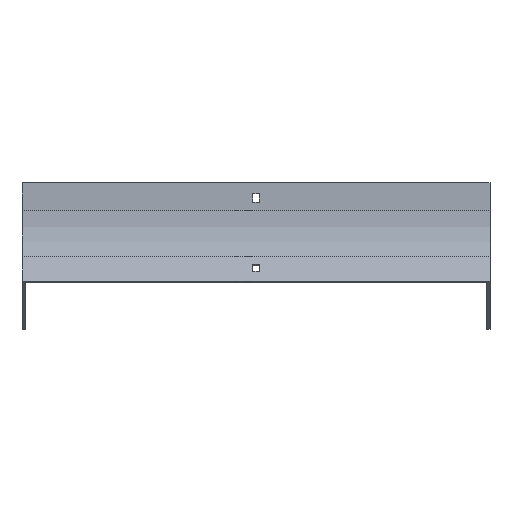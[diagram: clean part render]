
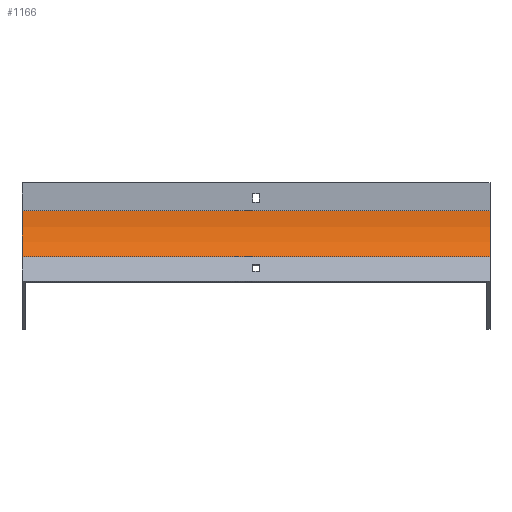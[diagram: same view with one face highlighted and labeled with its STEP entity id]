
A CAD part, front view. The second image highlights one B-rep face of the part: STEP entity #1166.
In plain terms, the highlighted cylindrical face has radius 100 mm (diameter 200 mm), a partial arc.
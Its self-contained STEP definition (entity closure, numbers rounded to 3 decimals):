
#49 = DIRECTION ( 'NONE',  ( -1., 0., 0. ) ) ;
#133 = DIRECTION ( 'NONE',  ( -1., 0., 0. ) ) ;
#297 = CARTESIAN_POINT ( 'NONE',  ( 252., -100., -30. ) ) ;
#334 = AXIS2_PLACEMENT_3D ( 'NONE', #736, #133, #1176 ) ;
#388 = CARTESIAN_POINT ( 'NONE',  ( 252., 0., -30. ) ) ;
#402 = CARTESIAN_POINT ( 'NONE',  ( -252., 0., -30. ) ) ;
#405 = CARTESIAN_POINT ( 'NONE',  ( 252., 0., -30. ) ) ;
#557 = CYLINDRICAL_SURFACE ( 'NONE', #1529, 100. ) ;
#608 = EDGE_CURVE ( 'NONE', #1259, #1346, #1929, .T. ) ;
#736 = CARTESIAN_POINT ( 'NONE',  ( -252., -100., -30. ) ) ;
#782 = CARTESIAN_POINT ( 'NONE',  ( 252., -13.397, -80. ) ) ;
#809 = CIRCLE ( 'NONE', #334, 100. ) ;
#818 = EDGE_LOOP ( 'NONE', ( #826, #1904, #1129, #973 ) ) ;
#826 = ORIENTED_EDGE ( 'NONE', *, *, #1754, .T. ) ;
#879 = DIRECTION ( 'NONE',  ( -1., 0., 0. ) ) ;
#955 = VERTEX_POINT ( 'NONE', #402 ) ;
#973 = ORIENTED_EDGE ( 'NONE', *, *, #1367, .T. ) ;
#995 = VECTOR ( 'NONE', #49, 1000. ) ;
#1002 = DIRECTION ( 'NONE',  ( -1., 0., 0. ) ) ;
#1051 = EDGE_CURVE ( 'NONE', #1746, #1259, #1812, .T. ) ;
#1129 = ORIENTED_EDGE ( 'NONE', *, *, #1051, .F. ) ;
#1152 = CARTESIAN_POINT ( 'NONE',  ( 252., -100., -30. ) ) ;
#1166 = ADVANCED_FACE ( 'NONE', ( #1323 ), #557, .F. ) ;
#1174 = DIRECTION ( 'NONE',  ( 0., 0., 1. ) ) ;
#1176 = DIRECTION ( 'NONE',  ( 0., 0., 1. ) ) ;
#1259 = VERTEX_POINT ( 'NONE', #782 ) ;
#1280 = CARTESIAN_POINT ( 'NONE',  ( -252., -13.397, -80. ) ) ;
#1323 = FACE_OUTER_BOUND ( 'NONE', #818, .T. ) ;
#1331 = DIRECTION ( 'NONE',  ( -1., 0., 0. ) ) ;
#1346 = VERTEX_POINT ( 'NONE', #1280 ) ;
#1367 = EDGE_CURVE ( 'NONE', #1746, #955, #1890, .T. ) ;
#1482 = CARTESIAN_POINT ( 'NONE',  ( 252., -13.397, -80. ) ) ;
#1529 = AXIS2_PLACEMENT_3D ( 'NONE', #1152, #1002, #1174 ) ;
#1726 = AXIS2_PLACEMENT_3D ( 'NONE', #297, #1331, #1785 ) ;
#1746 = VERTEX_POINT ( 'NONE', #405 ) ;
#1754 = EDGE_CURVE ( 'NONE', #955, #1346, #809, .T. ) ;
#1773 = VECTOR ( 'NONE', #879, 1000. ) ;
#1785 = DIRECTION ( 'NONE',  ( 0., 0., 1. ) ) ;
#1812 = CIRCLE ( 'NONE', #1726, 100. ) ;
#1890 = LINE ( 'NONE', #388, #995 ) ;
#1904 = ORIENTED_EDGE ( 'NONE', *, *, #608, .F. ) ;
#1929 = LINE ( 'NONE', #1482, #1773 ) ;
